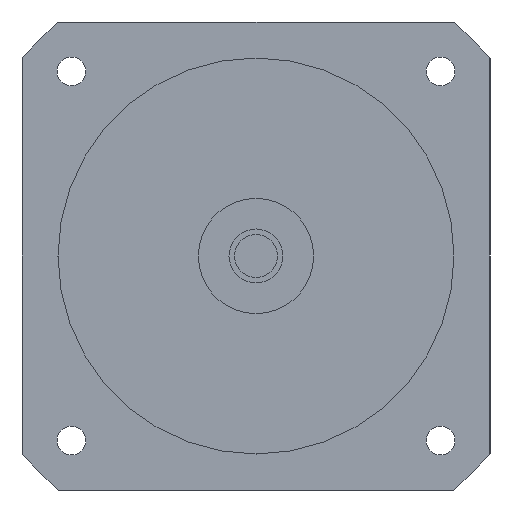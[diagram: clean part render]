
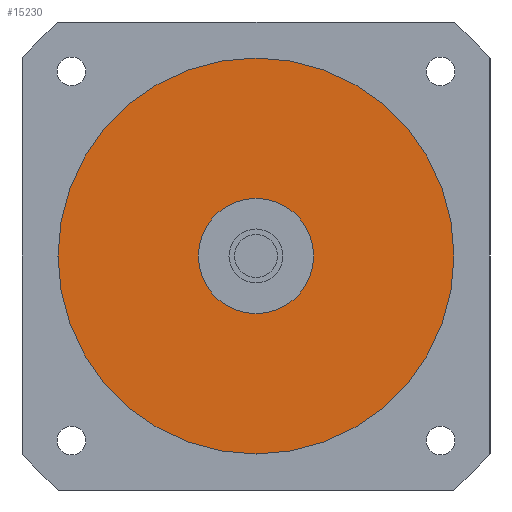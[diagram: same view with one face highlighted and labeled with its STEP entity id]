
A CAD part, left-side view. The second image highlights one B-rep face of the part: STEP entity #15230.
In plain terms, the highlighted planar face has unit normal (-1, 0, 0) as drawn and (0, 0, -1) by its records, which use the part's own axes.
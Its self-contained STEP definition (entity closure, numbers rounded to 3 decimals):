
#14650=CARTESIAN_POINT('',(55.,0.,-54.2));
#14660=VERTEX_POINT('',#14650);
#14750=CARTESIAN_POINT('',(-55.,0.,-54.2));
#14760=VERTEX_POINT('',#14750);
#14790=CARTESIAN_POINT('',(0.,0.,
-54.2));
#14800=DIRECTION('',(0.,0.,1.));
#14810=DIRECTION('',(0.,1.,0.));
#14820=AXIS2_PLACEMENT_3D('',#14790,#14800,#14810);
#14830=CIRCLE('',#14820,55.);
#14840=CARTESIAN_POINT('',(0.,55.,-54.2));
#14850=VERTEX_POINT('',#14840);
#14860=EDGE_CURVE('',#14850,#14760,#14830,.T.);
#14880=EDGE_CURVE('',#14660,#14850,#14830,.T.);
#14930=CARTESIAN_POINT('',(0.,0.,
-54.2));
#14940=DIRECTION('',(0.,0.,1.));
#14950=DIRECTION('',(-1.,0.,0.));
#14960=AXIS2_PLACEMENT_3D('',#14930,#14940,#14950);
#14970=PLANE('',#14960);
#14980=ORIENTED_EDGE('',*,*,#14860,.F.);
#14990=EDGE_CURVE('',#14760,#14660,#14830,.T.);
#15000=ORIENTED_EDGE('',*,*,#14990,.F.);
#15010=ORIENTED_EDGE('',*,*,#14880,.F.);
#15020=EDGE_LOOP('',(#15010,#15000,#14980));
#15030=FACE_OUTER_BOUND('',#15020,.T.);
#15040=CARTESIAN_POINT('',(0.,0.,
-54.2));
#15050=DIRECTION('',(0.,0.,1.));
#15060=DIRECTION('',(0.,1.,0.));
#15070=AXIS2_PLACEMENT_3D('',#15040,#15050,#15060);
#15080=CIRCLE('',#15070,16.);
#15090=CARTESIAN_POINT('',(-16.,0.,-54.2));
#15100=VERTEX_POINT('',#15090);
#15110=CARTESIAN_POINT('',(16.,0.,-54.2));
#15120=VERTEX_POINT('',#15110);
#15130=EDGE_CURVE('',#15100,#15120,#15080,.T.);
#15140=ORIENTED_EDGE('',*,*,#15130,.T.);
#15150=CARTESIAN_POINT('',(0.,16.,-54.2));
#15160=VERTEX_POINT('',#15150);
#15170=EDGE_CURVE('',#15160,#15100,#15080,.T.);
#15180=ORIENTED_EDGE('',*,*,#15170,.T.);
#15190=EDGE_CURVE('',#15120,#15160,#15080,.T.);
#15200=ORIENTED_EDGE('',*,*,#15190,.T.);
#15210=EDGE_LOOP('',(#15200,#15180,#15140));
#15220=FACE_BOUND('',#15210,.T.);
#15230=ADVANCED_FACE('',(#15030,#15220),#14970,.F.);
